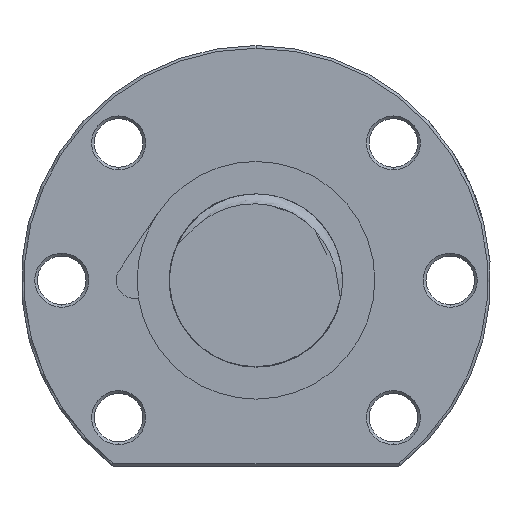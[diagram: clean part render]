
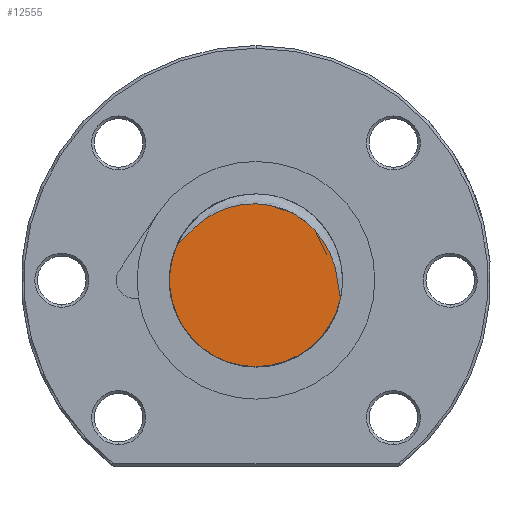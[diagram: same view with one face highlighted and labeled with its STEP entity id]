
A CAD part, left-side view. The second image highlights one B-rep face of the part: STEP entity #12555.
In plain terms, the highlighted planar face has unit normal (-1, 0, 0).
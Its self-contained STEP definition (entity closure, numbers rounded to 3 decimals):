
#1770 = CARTESIAN_POINT ( 'NONE',  ( -197., -15.638, -3.384 ) ) ;
#1771 = DIRECTION ( 'NONE',  ( 0., 1., 0. ) ) ;
#1772 = DIRECTION ( 'NONE',  ( 1., 0., 0. ) ) ;
#1773 = CARTESIAN_POINT ( 'NONE',  ( -197., 0., 0. ) ) ;
#1774 = AXIS2_PLACEMENT_3D ( 'NONE', #1773, #1772, #1771 ) ;
#1779 = CIRCLE ( 'NONE', #1774, 16. ) ;
#10528 = VERTEX_POINT ( 'NONE', #28869 ) ;
#10530 = EDGE_CURVE ( 'NONE', #10528, #10563, #28862, .T. ) ;
#10563 = VERTEX_POINT ( 'NONE', #28387 ) ;
#11915 = EDGE_CURVE ( 'NONE', #11916, #10528, #1779, .T. ) ;
#11916 = VERTEX_POINT ( 'NONE', #1770 ) ;
#12276 = CARTESIAN_POINT ( 'NONE',  ( -197., 14.64, 6.455 ) ) ;
#12277 = CARTESIAN_POINT ( 'NONE',  ( -197., 14.47, 6.605 ) ) ;
#12278 = CARTESIAN_POINT ( 'NONE',  ( -197., 14.313, 6.767 ) ) ;
#12281 = CARTESIAN_POINT ( 'NONE',  ( -197., 14.003, 7.097 ) ) ;
#12282 = CARTESIAN_POINT ( 'NONE',  ( -197., 13.85, 7.265 ) ) ;
#12283 = CARTESIAN_POINT ( 'NONE',  ( -197., 13.394, 7.768 ) ) ;
#12296 = FACE_OUTER_BOUND ( 'NONE', #12559, .T. ) ;
#12308 = CARTESIAN_POINT ( 'NONE',  ( -197., 13.09, 8.103 ) ) ;
#12311 = CARTESIAN_POINT ( 'NONE',  ( -197., 12.153, 9.087 ) ) ;
#12313 = CARTESIAN_POINT ( 'NONE',  ( -197., 11.498, 9.714 ) ) ;
#12314 = CARTESIAN_POINT ( 'NONE',  ( -197., 10.455, 10.576 ) ) ;
#12315 = CARTESIAN_POINT ( 'NONE',  ( -197., 10.097, 10.852 ) ) ;
#12316 = CARTESIAN_POINT ( 'NONE',  ( -197., 9.359, 11.376 ) ) ;
#12317 = CARTESIAN_POINT ( 'NONE',  ( -197., 8.979, 11.625 ) ) ;
#12319 = CARTESIAN_POINT ( 'NONE',  ( -197., 7.82, 12.32 ) ) ;
#12320 = CARTESIAN_POINT ( 'NONE',  ( -197., 7.018, 12.72 ) ) ;
#12322 = CARTESIAN_POINT ( 'NONE',  ( -197., 5.767, 13.218 ) ) ;
#12324 = CARTESIAN_POINT ( 'NONE',  ( -197., 5.342, 13.367 ) ) ;
#12326 = CARTESIAN_POINT ( 'NONE',  ( -197., 4.476, 13.629 ) ) ;
#12329 = CARTESIAN_POINT ( 'NONE',  ( -197., 4.036, 13.742 ) ) ;
#12330 = CARTESIAN_POINT ( 'NONE',  ( -197., 2.715, 14.023 ) ) ;
#12332 = CARTESIAN_POINT ( 'NONE',  ( -197., 1.826, 14.133 ) ) ;
#12333 = CARTESIAN_POINT ( 'NONE',  ( -197., 0.48, 14.182 ) ) ;
#12334 = CARTESIAN_POINT ( 'NONE',  ( -197., 0.029, 14.179 ) ) ;
#12335 = CARTESIAN_POINT ( 'NONE',  ( -197., -0.877, 14.132 ) ) ;
#12337 = CARTESIAN_POINT ( 'NONE',  ( -197., -1.327, 14.089 ) ) ;
#12338 = CARTESIAN_POINT ( 'NONE',  ( -197., -2.662, 13.901 ) ) ;
#12340 = CARTESIAN_POINT ( 'NONE',  ( -197., -3.534, 13.699 ) ) ;
#12342 = CARTESIAN_POINT ( 'NONE',  ( -197., -4.816, 13.28 ) ) ;
#12344 = CARTESIAN_POINT ( 'NONE',  ( -197., -5.239, 13.12 ) ) ;
#12347 = CARTESIAN_POINT ( 'NONE',  ( -197., -6.073, 12.763 ) ) ;
#12348 = CARTESIAN_POINT ( 'NONE',  ( -197., -6.479, 12.567 ) ) ;
#12349 = CARTESIAN_POINT ( 'NONE',  ( -197., -7.665, 11.931 ) ) ;
#12350 = CARTESIAN_POINT ( 'NONE',  ( -197., -8.412, 11.44 ) ) ;
#12352 = CARTESIAN_POINT ( 'NONE',  ( -197., -9.47, 10.604 ) ) ;
#12354 = CARTESIAN_POINT ( 'NONE',  ( -197., -9.813, 10.309 ) ) ;
#12357 = CARTESIAN_POINT ( 'NONE',  ( -197., -10.473, 9.687 ) ) ;
#12358 = CARTESIAN_POINT ( 'NONE',  ( -197., -10.788, 9.364 ) ) ;
#12359 = CARTESIAN_POINT ( 'NONE',  ( -197., -11.685, 8.36 ) ) ;
#12360 = CARTESIAN_POINT ( 'NONE',  ( -197., -12.222, 7.644 ) ) ;
#12361 = CARTESIAN_POINT ( 'NONE',  ( -197., -12.939, 6.502 ) ) ;
#12362 = CARTESIAN_POINT ( 'NONE',  ( -197., -13.164, 6.109 ) ) ;
#12363 = CARTESIAN_POINT ( 'NONE',  ( -197., -13.581, 5.305 ) ) ;
#12364 = CARTESIAN_POINT ( 'NONE',  ( -197., -13.772, 4.897 ) ) ;
#12366 = CARTESIAN_POINT ( 'NONE',  ( -197., -14.293, 3.659 ) ) ;
#12368 = CARTESIAN_POINT ( 'NONE',  ( -197., -14.572, 2.812 ) ) ;
#12370 = CARTESIAN_POINT ( 'NONE',  ( -197., -15.015, 1.083 ) ) ;
#12372 = CARTESIAN_POINT ( 'NONE',  ( -197., -15.175, 0.199 ) ) ;
#12374 = CARTESIAN_POINT ( 'NONE',  ( -197., -15.353, -1.144 ) ) ;
#12376 = CARTESIAN_POINT ( 'NONE',  ( -197., -15.402, -1.593 ) ) ;
#12378 = CARTESIAN_POINT ( 'NONE',  ( -197., -15.475, -2.267 ) ) ;
#12380 = CARTESIAN_POINT ( 'NONE',  ( -197., -15.5, -2.491 ) ) ;
#12382 = CARTESIAN_POINT ( 'NONE',  ( -197., -15.557, -2.939 ) ) ;
#12384 = CARTESIAN_POINT ( 'NONE',  ( -197., -15.589, -3.164 ) ) ;
#12386 = CARTESIAN_POINT ( 'NONE',  ( -197., -15.638, -3.384 ) ) ;
#12393 = B_SPLINE_CURVE_WITH_KNOTS ( 'NONE', 3,
 ( #12386, #12384, #12382, #12380, #12378, #12376, #12374, #12372, #12370, #12368, #12366, #12364, #12363, #12362, #12361, #12360, #12359, #12358, #12357, #12354, #12352, #12350, #12349, #12348, #12347, #12344, #12342, #12340, #12338, #12337, #12335, #12334, #12333, #12332, #12330, #12329, #12326, #12324, #12322, #12320, #12319, #12317, #12316, #12315, #12314, #12313, #12311, #12308, #12283, #12282, #12281, #12278, #12277, #12276 ),
 .UNSPECIFIED., .F., .F.,
 ( 4, 2, 2, 2, 2, 2, 2, 2, 2, 2, 2, 2, 2, 2, 2, 2, 2, 2, 2, 2, 2, 2, 2, 2, 2, 2, 4 ),
 ( 0.001, 0.002, 0.002, 0.004, 0.006, 0.009, 0.011, 0.012, 0.015, 0.016, 0.017, 0.02, 0.021, 0.023, 0.026, 0.027, 0.028, 0.031, 0.032, 0.034, 0.037, 0.038, 0.039, 0.042, 0.043, 0.044, 0.045 ),
 .UNSPECIFIED. ) ;
#12536 = DIRECTION ( 'NONE',  ( 0., 0., -1. ) ) ;
#12538 = DIRECTION ( 'NONE',  ( 1., 0., 0. ) ) ;
#12540 = CARTESIAN_POINT ( 'NONE',  ( -197., 0., 0. ) ) ;
#12541 = AXIS2_PLACEMENT_3D ( 'NONE', #12540, #12538, #12536 ) ;
#12543 = PLANE ( 'NONE',  #12541 ) ;
#12555 = ADVANCED_FACE ( 'NONE', ( #12296 ), #12543, .F. ) ;
#12559 = EDGE_LOOP ( 'NONE', ( #12560, #12561, #12563 ) ) ;
#12560 = ORIENTED_EDGE ( 'NONE', *, *, #11915, .F. ) ;
#12561 = ORIENTED_EDGE ( 'NONE', *, *, #12562, .T. ) ;
#12562 = EDGE_CURVE ( 'NONE', #11916, #10563, #12393, .T. ) ;
#12563 = ORIENTED_EDGE ( 'NONE', *, *, #10530, .F. ) ;
#28387 = CARTESIAN_POINT ( 'NONE',  ( -197., 14.64, 6.455 ) ) ;
#28855 = DIRECTION ( 'NONE',  ( 0., 1., 0. ) ) ;
#28857 = DIRECTION ( 'NONE',  ( 1., 0., 0. ) ) ;
#28859 = CARTESIAN_POINT ( 'NONE',  ( -197., 0., 0. ) ) ;
#28860 = AXIS2_PLACEMENT_3D ( 'NONE', #28859, #28857, #28855 ) ;
#28862 = CIRCLE ( 'NONE', #28860, 16. ) ;
#28869 = CARTESIAN_POINT ( 'NONE',  ( -197., 0., -16. ) ) ;
